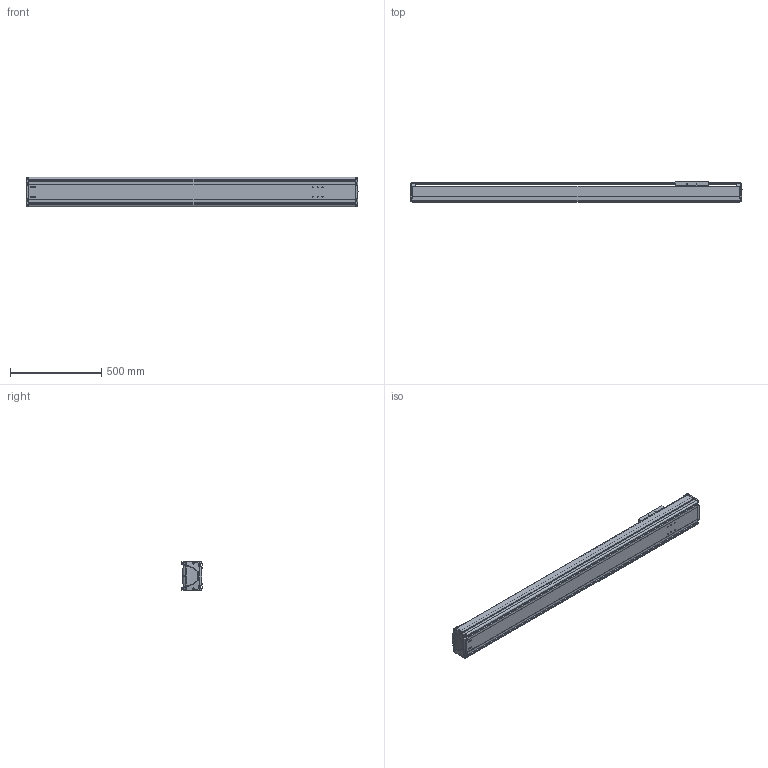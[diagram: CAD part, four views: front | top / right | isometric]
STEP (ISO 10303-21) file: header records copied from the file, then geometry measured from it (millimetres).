
FILE_DESCRIPTION((''),'2;1');
FILE_NAME('BE50G-ST-M_B-E0_IGS_PRT','2017-06-18T',(' '),(''),'PRO/ENGINEER BY PARAMETRIC TECHNOLOGY CORPORATION, 2015030','PRO/ENGINEER BY PARAMETRIC TECHNOLOGY CORPORATION, 2015030','');
FILE_SCHEMA(('CONFIG_CONTROL_DESIGN'));
Length unit declared in the file: millimetre
Products named in the file (1): BE50G-ST-M_B-E0_IGS_PRT
Bounding box: 1814.98 x 110 x 160 mm (x, y, z)
Volume: 7460613.7 mm3; surface area: 2717250.9 mm2
Topology: 3 solids, 108 shells, 1722 faces, 4610 edges, 2981 vertices
Faces by surface type: cylinder 800, plane 607, bspline 102, torus 87, cone 86, sphere 40
Entity records: 59807 total; most frequent: CARTESIAN_POINT 17306, ORIENTED_EDGE 8754, DIRECTION 8644, EDGE_CURVE 4584, AXIS2_PLACEMENT_3D 3254, VERTEX_POINT 2973, VECTOR 2136, LINE 2136
